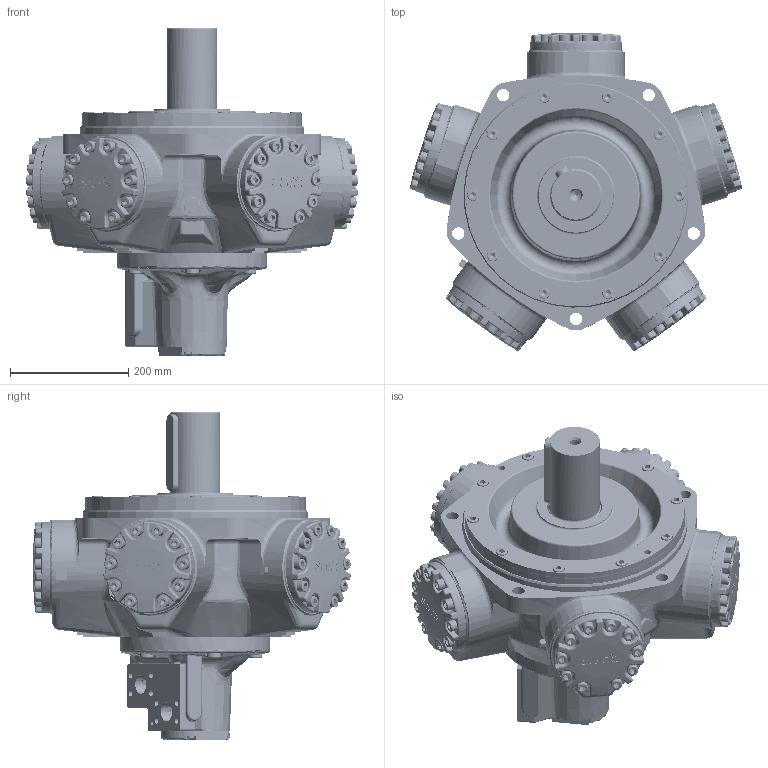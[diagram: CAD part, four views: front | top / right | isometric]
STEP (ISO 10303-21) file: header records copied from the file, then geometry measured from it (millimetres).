
FILE_DESCRIPTION((''),'2;1');
FILE_NAME('I:\3D Step files\Approved for WEB\Staffa\HMB125 P1 FM3 70.stp','2011-11-01T13:18:28',('mnorman'),(''),'Autodesk Inventor 2012','Autodesk Inventor 2012','');
FILE_SCHEMA(('AUTOMOTIVE_DESIGN { 1 0 10303 214 1 1 1 1 }'));
Length unit declared in the file: millimetre
Products named in the file (1): Part6
Bounding box: 562.07 x 537.19 x 553.72 mm (x, y, z)
Volume: 22459245.1 mm3; surface area: 2005195.4 mm2
Topology: 2 solids, 73 shells, 4084 faces, 9749 edges, 6049 vertices
Faces by surface type: plane 1524, bspline 924, cylinder 853, cone 342, torus 274, sphere 162, revolution 5
Full cylindrical faces by diameter (mm): 6.2 x1, 7.938 x5, 8.731 x4, 10.109 x8, 11.328 x62, 11.913 x4, 12.7 x60, 13.494 x10, 13.5 x50, 15.875 x10, 16.272 x5, 16.51 x1, 17.323 x1, 19.05 x63, 20.6 x50, 20.638 x10, 21 x5, 23.825 x5, 25.4 x5, 28.575 x5, 28.677 x5, 31.75 x2, 38.1 x3, 38.176 x5, 68.58 x1, 71.952 x1, 76.06 x2, 76.205 x1, 85.001 x1, 88.837 x1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
Entity records: 148879 total; most frequent: CARTESIAN_POINT 62532, ORIENTED_EDGE 17224, DIRECTION 14875, EDGE_CURVE 8612, AXIS2_PLACEMENT_3D 5882, VERTEX_POINT 5791, EDGE_LOOP 5249, FACE_OUTER_BOUND 4084
